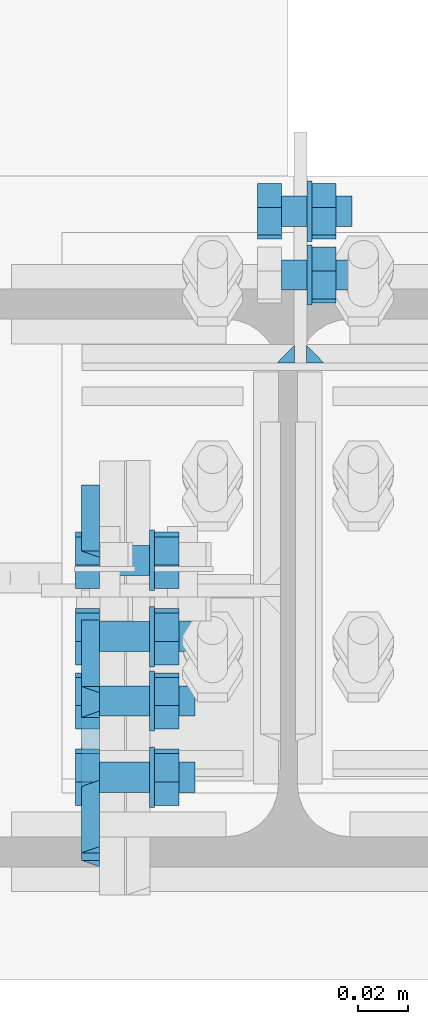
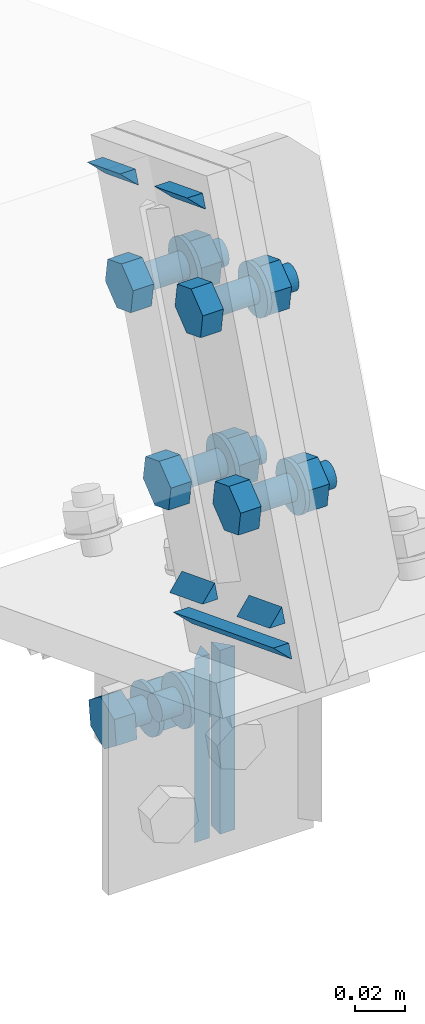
# One storey, part 61 of 72: 23 mechanical fasteners, 12 fasteners.
"""IFC4 building model written with IfcOpenShell, lengths in metres."""

from ifc_helpers import new_model, si_unit, frame, origin_with_axes, place, context, project, spatial, polyline, outline, extrude, type_object, element, save


model = new_model("IFC4")

# Units and contexts
model_context = context("Model", 3, precision=1e-05, world=origin_with_axes())
ifc_project = project(units=[si_unit("LENGTHUNIT", "METRE"), si_unit("AREAUNIT", "SQUARE_METRE"), si_unit("VOLUMEUNIT", "CUBIC_METRE"), si_unit("MASSUNIT", "GRAM", prefix="KILO"), si_unit("TIMEUNIT", "SECOND"), si_unit("PLANEANGLEUNIT", "RADIAN"), si_unit("SOLIDANGLEUNIT", "STERADIAN"), si_unit("THERMODYNAMICTEMPERATUREUNIT", "DEGREE_CELSIUS")], contexts=[model_context])

# Site, building, storey
placement_1 = place(None, origin_with_axes())
site = spatial("IfcSite", under=ifc_project, at=placement_1, Name="Italia", CompositionType="ELEMENT")
building = spatial("IfcBuilding", under=site, at=placement_1, Name="Uffici", CompositionType="ELEMENT")
storey = spatial("IfcBuildingStorey", under=building, at=placement_1, Name="Storey 0", CompositionType="ELEMENT", Elevation=0.0)

# Mechanical fasteners
mechanical_fastener_type_1 = type_object("IfcMechanicalFastenerType", Name="Collegamento 0205_0110", PredefinedType="BOLT")
placement_2 = place(placement_1, origin_with_axes())
mechanical_fastener_1_placement = place(placement_2, origin_with_axes())
element("IfcMechanicalFastener", 1, at=mechanical_fastener_1_placement, inside=storey, type_object=mechanical_fastener_type_1, Name="Collegamento 0205_0110", NominalDiameter=0.012, context=model_context, shape_type="SweptSolid", body=[
    extrude(outline(polyline([(0.0, 0.0), (-0.000204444, -0.00155306), (-0.000803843, -0.00299978), (-0.00175735, -0.00424242), (-0.003, -0.00519609), (-0.00444708, -0.00579548), (-0.006, -0.00600004), (-0.00755291, -0.00579548), (-0.009, -0.00519609), (-0.0102426, -0.00424242), (-0.0111962, -0.00299978), (-0.0117956, -0.00155306), (-0.012, 0.0), (-0.0117956, 0.00155306), (-0.0111962, 0.00299978), (-0.0102426, 0.00424242), (-0.009, 0.00519609), (-0.00755291, 0.00579548), (-0.006, 0.00600004), (-0.00444708, 0.00579548), (-0.003, 0.00519609), (-0.00175735, 0.00424242), (-0.000803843, 0.00299978), (-0.000204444, 0.00155306), (0.0, 0.0)])), frame((13.9955, 0.114548, 6.87073), z_axis=(-1.0, 0.0, 0.0), x_axis=(0.0, -1.0, 0.0)), (0.0, 0.0, 1.0), 0.0279999),
])
mechanical_fastener_type_2 = type_object("IfcMechanicalFastenerType", Name="Collegamento 0205_0110", PredefinedType="BOLT")
mechanical_fastener_2_placement = place(placement_2, origin_with_axes())
element("IfcMechanicalFastener", 2, at=mechanical_fastener_2_placement, inside=storey, type_object=mechanical_fastener_type_2, Name="Collegamento 0205_0110", NominalDiameter=0.0119999, context=model_context, shape_type="SweptSolid", body=[
    extrude(outline(polyline([(0.0, 0.0), (0.0095285, 0.00729465), (0.00797568, 0.0191936), (-0.0031057, 0.0237985), (-0.0126342, 0.0165038), (-0.0110813, 0.00460482), (0.0, 0.0)])), frame((13.9891, 0.118995, 6.85883), z_axis=(-1.0, 0.0, 0.0), x_axis=(0.0, -1.0, 0.0)), (0.0, 0.0, 1.0), 0.00960064),
])
mechanical_fastener_type_3 = type_object("IfcMechanicalFastenerType", Name="Collegamento 0205_0110", PredefinedType="BOLT")
mechanical_fastener_3_placement = place(placement_2, origin_with_axes())
element("IfcMechanicalFastener", 3, at=mechanical_fastener_3_placement, inside=storey, type_object=mechanical_fastener_type_3, Name="Collegamento 0205_0110", NominalDiameter=0.024, context=model_context, shape_type="SweptSolid", body=[
    extrude(outline(polyline([(0.0, 0.0), (-0.000408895, -0.00310564), (-0.00160769, -0.00600004), (-0.00351472, -0.00848532), (-0.006, -0.0103922), (-0.00889418, -0.011591), (-0.012, -0.0120001), (-0.0151058, -0.011591), (-0.018, -0.0103922), (-0.0204853, -0.00848532), (-0.0223923, -0.00600004), (-0.0235911, -0.00310564), (-0.024, 0.0), (-0.0235911, 0.00310564), (-0.0223923, 0.00600004), (-0.0204853, 0.00848532), (-0.018, 0.0103922), (-0.0151058, 0.011591), (-0.012, 0.0120001), (-0.00889418, 0.011591), (-0.006, 0.0103922), (-0.00351471, 0.00848532), (-0.00160769, 0.00600004), (-0.000408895, 0.00310564), (0.0, 0.0)])), frame((13.9795, 0.108548, 6.87073), z_axis=(-1.0, 0.0, 0.0), x_axis=(0.0, -1.0, 0.0)), (0.0, 0.0, 1.0), 0.00199986),
])
mechanical_fastener_type_4 = type_object("IfcMechanicalFastenerType", Name="Collegamento 0205_0110", PredefinedType="BOLT")
mechanical_fastener_4_placement = place(placement_2, origin_with_axes())
element("IfcMechanicalFastener", 4, at=mechanical_fastener_4_placement, inside=storey, type_object=mechanical_fastener_type_4, Name="Collegamento 0205_0110", NominalDiameter=0.0119999, context=model_context, shape_type="SweptSolid", body=[
    extrude(outline(polyline([(0.0, 0.0), (0.00952852, 0.00729465), (0.0079757, 0.0191936), (-0.00310567, 0.0237985), (-0.0126342, 0.0165043), (-0.0110813, 0.00460482), (0.0, 0.0)])), frame((13.9675, 0.144404, 6.83938), z_axis=(-1.0, 0.0, 0.0), x_axis=(0.0, -1.0, 0.0)), (0.0, 0.0, 1.0), 0.00960064),
])
mechanical_fastener_type_5 = type_object("IfcMechanicalFastenerType", Name="Collegamento 0205_0110", PredefinedType="BOLT")
mechanical_fastener_5_placement = place(placement_2, origin_with_axes())
element("IfcMechanicalFastener", 5, at=mechanical_fastener_5_placement, inside=storey, type_object=mechanical_fastener_type_5, Name="Collegamento 0205_0110", NominalDiameter=0.012, context=model_context, shape_type="SweptSolid", body=[
    extrude(outline(polyline([(0.0, 0.0), (-0.000204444, -0.00155306), (-0.000803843, -0.00299978), (-0.00175735, -0.00424242), (-0.00299999, -0.00519609), (-0.00444709, -0.00579548), (-0.006, -0.00600004), (-0.00755291, -0.00579548), (-0.009, -0.00519609), (-0.0102426, -0.00424242), (-0.0111962, -0.00299978), (-0.0117956, -0.00155306), (-0.012, 0.0), (-0.0117956, 0.00155306), (-0.0111962, 0.00299978), (-0.0102426, 0.00424242), (-0.009, 0.00519609), (-0.00755291, 0.00579548), (-0.006, 0.00600004), (-0.00444709, 0.00579548), (-0.00299999, 0.00519609), (-0.00175735, 0.00424242), (-0.000803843, 0.00299978), (-0.000204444, 0.00155306), (0.0, 0.0)])), frame((13.9955, 0.139957, 6.85128), z_axis=(-1.0, 0.0, 0.0), x_axis=(0.0, -1.0, 0.0)), (0.0, 0.0, 1.0), 0.0279999),
])
mechanical_fastener_type_6 = type_object("IfcMechanicalFastenerType", Name="Collegamento 0205_0110", PredefinedType="BOLT")
mechanical_fastener_6_placement = place(placement_2, origin_with_axes())
element("IfcMechanicalFastener", 6, at=mechanical_fastener_6_placement, inside=storey, type_object=mechanical_fastener_type_6, Name="Collegamento 0205_0110", NominalDiameter=0.0119999, context=model_context, shape_type="SweptSolid", body=[
    extrude(outline(polyline([(0.0, 0.0), (0.00952852, 0.00729465), (0.0079757, 0.0191936), (-0.00310567, 0.0237985), (-0.0126342, 0.0165043), (-0.0110813, 0.00460482), (0.0, 0.0)])), frame((13.9891, 0.144404, 6.83938), z_axis=(-1.0, 0.0, 0.0), x_axis=(0.0, -1.0, 0.0)), (0.0, 0.0, 1.0), 0.00960064),
])
mechanical_fastener_type_7 = type_object("IfcMechanicalFastenerType", Name="Collegamento 0205_0110", PredefinedType="BOLT")
mechanical_fastener_7_placement = place(placement_2, origin_with_axes())
element("IfcMechanicalFastener", 7, at=mechanical_fastener_7_placement, inside=storey, type_object=mechanical_fastener_type_7, Name="Collegamento 0205_0110", NominalDiameter=0.024, context=model_context, shape_type="SweptSolid", body=[
    extrude(outline(polyline([(0.0, 0.0), (-0.000408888, -0.00310564), (-0.00160769, -0.00600004), (-0.00351471, -0.00848532), (-0.006, -0.0103922), (-0.00889416, -0.011591), (-0.012, -0.0120001), (-0.0151058, -0.011591), (-0.018, -0.0103922), (-0.0204853, -0.00848532), (-0.0223923, -0.00600004), (-0.0235911, -0.00310564), (-0.024, 0.0), (-0.0235911, 0.00310564), (-0.0223923, 0.00600004), (-0.0204853, 0.00848532), (-0.018, 0.0103922), (-0.0151058, 0.011591), (-0.012, 0.0120001), (-0.00889416, 0.011591), (-0.006, 0.0103922), (-0.00351471, 0.00848532), (-0.00160769, 0.00600004), (-0.000408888, 0.00310564), (0.0, 0.0)])), frame((13.9795, 0.133957, 6.85128), z_axis=(-1.0, 0.0, 0.0), x_axis=(0.0, -1.0, 0.0)), (0.0, 0.0, 1.0), 0.00199986),
])

# Fasteners
fastener_type_1 = type_object("IfcFastenerType", Name="Collegamento 0205_0110", PredefinedType="WELD")
fastener_1_placement = place(placement_2, origin_with_axes())
element("IfcFastener", 8, at=fastener_1_placement, inside=storey, type_object=fastener_type_1, Name="Collegamento 0205_0110", context=model_context, shape_type="SweptSolid", body=[
    extrude(outline(polyline([(0.0, 0.0), (0.00717336, -0.00695801), (0.0, -0.00695801), (0.0, 0.0)])), frame((13.9844, 0.08545, 6.91661), z_axis=(0.0, 0.0, -1.0), x_axis=(0.0, 1.0, 0.0)), (0.0, 0.0, 1.0), 0.0900998),
])
fastener_type_2 = type_object("IfcFastenerType", Name="Collegamento 0205_0110", PredefinedType="WELD")
fastener_2_placement = place(placement_2, origin_with_axes())
element("IfcFastener", 9, at=fastener_2_placement, inside=storey, type_object=fastener_type_2, Name="Collegamento 0205_0110", context=model_context, shape_type="SweptSolid", body=[
    extrude(outline(polyline([(0.0, 0.0), (0.00717336, -0.00695801), (0.0, -0.00695801), (0.0, 0.0)])), frame((13.9656, 0.08545, 6.82651), z_axis=(0.0, 0.0, 1.0), x_axis=(0.0, 1.0, 0.0)), (0.0, 0.0, 1.0), 0.0900998),
])
fastener_type_3 = type_object("IfcFastenerType", Name="Collegamento 0205_0204", PredefinedType="WELD")
fastener_3_placement = place(placement_2, origin_with_axes())
element("IfcFastener", 10, at=fastener_3_placement, inside=storey, type_object=fastener_type_3, Name="Collegamento 0205_0204", context=model_context, shape_type="SweptSolid", body=[
    extrude(outline(polyline([(0.0, 0.0), (-0.00717354, 0.00695801), (0.0, 0.00695801), (0.0, 0.0)])), frame((13.8951, 0.0345697, 7.21007), z_axis=(0.0, -0.932385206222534, 0.361466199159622), x_axis=(1.0, 0.0, 0.0)), (0.0, 0.0, 1.0), 0.0283003),
])
fastener_type_4 = type_object("IfcFastenerType", Name="Collegamento 0205_0204", PredefinedType="WELD")
fastener_4_placement = place(placement_2, origin_with_axes())
element("IfcFastener", 11, at=fastener_4_placement, inside=storey, type_object=fastener_type_4, Name="Collegamento 0205_0204", context=model_context, shape_type="SweptSolid", body=[
    extrude(outline(polyline([(0.0, 0.0), (0.00717354, -0.00695753), (0.0, -0.00695753), (0.0, 0.0)])), frame((13.8951, -0.0529705, 7.06256), z_axis=(0.0, 0.932390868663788, -0.36145156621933), x_axis=(-1.0, 0.0, 0.0)), (0.0, 0.0, 1.0), 0.0283001),
])
fastener_type_5 = type_object("IfcFastenerType", Name="Collegamento 0205_0204", PredefinedType="WELD")
fastener_5_placement = place(placement_2, origin_with_axes())
element("IfcFastener", 12, at=fastener_5_placement, inside=storey, type_object=fastener_type_5, Name="Collegamento 0205_0204", context=model_context, shape_type="SweptSolid", body=[
    extrude(outline(polyline([(0.0, 0.0), (-0.00717354, 0.00695801), (0.0, 0.00695801), (0.0, 0.0)])), frame((13.8951, -0.0346503, 7.03152), z_axis=(0.0, -0.93238765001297, 0.361459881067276), x_axis=(1.0, 0.0, 0.0)), (0.0, 0.0, 1.0), 0.0861001),
])
fastener_type_6 = type_object("IfcFastenerType", Name="Collegamento 0205_0204", PredefinedType="WELD")
fastener_6_placement = place(placement_2, origin_with_axes())
element("IfcFastener", 13, at=fastener_6_placement, inside=storey, type_object=fastener_type_6, Name="Collegamento 0205_0204", context=model_context, shape_type="SweptSolid", body=[
    extrude(outline(polyline([(0.0, 0.0), (0.00717354, -0.00695848), (0.0, -0.00695848), (0.0, 0.0)])), frame((13.8951, -0.106862, 7.08345), z_axis=(0.0, 0.932385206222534, -0.361466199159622), x_axis=(-1.0, 0.0, 0.0)), (0.0, 0.0, 1.0), 0.0283003),
])
fastener_type_7 = type_object("IfcFastenerType", Name="Collegamento 0205_0204", PredefinedType="WELD")
fastener_7_placement = place(placement_2, origin_with_axes())
element("IfcFastener", 14, at=fastener_7_placement, inside=storey, type_object=fastener_type_7, Name="Collegamento 0205_0204", context=model_context, shape_type="SweptSolid", body=[
    extrude(outline(polyline([(0.0, 0.0), (-0.00717354, 0.00695848), (0.0, 0.00695848), (0.0, 0.0)])), frame((13.8951, -0.0193225, 7.23096), z_axis=(0.0, -0.932388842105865, 0.361456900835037), x_axis=(1.0, 0.0, 0.0)), (0.0, 0.0, 1.0), 0.0282997),
])
fastener_type_8 = type_object("IfcFastenerType", Name="Collegamento 0205_0204", PredefinedType="WELD")
fastener_8_placement = place(placement_2, origin_with_axes())
element("IfcFastener", 15, at=fastener_8_placement, inside=storey, type_object=fastener_type_8, Name="Collegamento 0205_0204", context=model_context, shape_type="SweptSolid", body=[
    extrude(outline(polyline([(0.0, 0.0), (-0.00717354, 0.00695801), (0.0, 0.00695801), (0.0, 0.0)])), frame((13.8951, 0.0345697, 7.21007), z_axis=(0.0, -0.932385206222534, 0.361466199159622), x_axis=(1.0, 0.0, 0.0)), (0.0, 0.0, 1.0), 0.0283003),
])
fastener_type_9 = type_object("IfcFastenerType", Name="Collegamento 0205_0204", PredefinedType="WELD")
fastener_9_placement = place(placement_2, origin_with_axes())
element("IfcFastener", 16, at=fastener_9_placement, inside=storey, type_object=fastener_type_9, Name="Collegamento 0205_0204", context=model_context, shape_type="SweptSolid", body=[
    extrude(outline(polyline([(0.0, 0.0), (0.00717354, -0.00695753), (0.0, -0.00695753), (0.0, 0.0)])), frame((13.8951, -0.0529705, 7.06256), z_axis=(0.0, 0.932390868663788, -0.36145156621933), x_axis=(-1.0, 0.0, 0.0)), (0.0, 0.0, 1.0), 0.0283001),
])
fastener_type_10 = type_object("IfcFastenerType", Name="Collegamento 0205_0204", PredefinedType="WELD")
fastener_10_placement = place(placement_2, origin_with_axes())
element("IfcFastener", 17, at=fastener_10_placement, inside=storey, type_object=fastener_type_10, Name="Collegamento 0205_0204", context=model_context, shape_type="SweptSolid", body=[
    extrude(outline(polyline([(0.0, 0.0), (-0.00717354, 0.00695801), (0.0, 0.00695801), (0.0, 0.0)])), frame((13.8951, -0.0346503, 7.03152), z_axis=(0.0, -0.93238765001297, 0.361459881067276), x_axis=(1.0, 0.0, 0.0)), (0.0, 0.0, 1.0), 0.0861001),
])
fastener_type_11 = type_object("IfcFastenerType", Name="Collegamento 0205_0204", PredefinedType="WELD")
fastener_11_placement = place(placement_2, origin_with_axes())
element("IfcFastener", 18, at=fastener_11_placement, inside=storey, type_object=fastener_type_11, Name="Collegamento 0205_0204", context=model_context, shape_type="SweptSolid", body=[
    extrude(outline(polyline([(0.0, 0.0), (0.00717354, -0.00695848), (0.0, -0.00695848), (0.0, 0.0)])), frame((13.8951, -0.106862, 7.08345), z_axis=(0.0, 0.932385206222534, -0.361466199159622), x_axis=(-1.0, 0.0, 0.0)), (0.0, 0.0, 1.0), 0.0283003),
])
fastener_type_12 = type_object("IfcFastenerType", Name="Collegamento 0205_0204", PredefinedType="WELD")
fastener_12_placement = place(placement_2, origin_with_axes())
element("IfcFastener", 19, at=fastener_12_placement, inside=storey, type_object=fastener_type_12, Name="Collegamento 0205_0204", context=model_context, shape_type="SweptSolid", body=[
    extrude(outline(polyline([(0.0, 0.0), (-0.00717354, 0.00695848), (0.0, 0.00695848), (0.0, 0.0)])), frame((13.8951, -0.0193225, 7.23096), z_axis=(0.0, -0.932388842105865, 0.361456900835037), x_axis=(1.0, 0.0, 0.0)), (0.0, 0.0, 1.0), 0.0282997),
])

# Mechanical fasteners
mechanical_fastener_type_8 = type_object("IfcMechanicalFastenerType", Name="Collegamento 0205_0204", PredefinedType="BOLT")
mechanical_fastener_8_placement = place(placement_2, origin_with_axes())
element("IfcMechanicalFastener", 20, at=mechanical_fastener_8_placement, inside=storey, type_object=mechanical_fastener_type_8, Name="Collegamento 0205_0204", NominalDiameter=0.0119999, context=model_context, shape_type="SweptSolid", body=[
    extrude(outline(polyline([(0.0, 0.0), (-0.0111886, -0.00433731), (-0.0205394, 0.00318336), (-0.0187015, 0.0150418), (-0.00751284, 0.0193796), (0.0018379, 0.0118585), (0.0, 0.0)])), frame((13.895, -0.0327067, 7.08924), z_axis=(-1.0, 0.0, 0.0), x_axis=(0.0, -1.0, 0.0)), (0.0, 0.0, 1.0), 0.00959969),
])
mechanical_fastener_type_9 = type_object("IfcMechanicalFastenerType", Name="Collegamento 0205_0204", PredefinedType="BOLT")
mechanical_fastener_9_placement = place(placement_2, origin_with_axes())
element("IfcMechanicalFastener", 21, at=mechanical_fastener_9_placement, inside=storey, type_object=mechanical_fastener_type_9, Name="Collegamento 0205_0204", NominalDiameter=0.012, context=model_context, shape_type="SweptSolid", body=[
    extrude(outline(polyline([(0.0, 0.0), (-0.000204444, -0.00155306), (-0.000803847, -0.00299978), (-0.00175736, -0.00424242), (-0.003, -0.00519609), (-0.00444708, -0.00579548), (-0.006, -0.00600004), (-0.00755291, -0.00579548), (-0.009, -0.00519609), (-0.0102426, -0.00424242), (-0.0111962, -0.00299978), (-0.0117956, -0.00155306), (-0.012, 0.0), (-0.0117956, 0.00155306), (-0.0111962, 0.00299978), (-0.0102426, 0.00424242), (-0.009, 0.00519609), (-0.00755291, 0.00579548), (-0.006, 0.00600004), (-0.00444709, 0.00579548), (-0.003, 0.00519609), (-0.00175736, 0.00424242), (-0.000803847, 0.00299978), (-0.000204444, 0.00155306), (0.0, 0.0)])), frame((13.933, -0.029356, 7.09676), z_axis=(-1.0, 0.0, 0.0), x_axis=(0.0, -1.0, 0.0)), (0.0, 0.0, 1.0), 0.0380001),
])
mechanical_fastener_type_10 = type_object("IfcMechanicalFastenerType", Name="Collegamento 0205_0204", PredefinedType="BOLT")
mechanical_fastener_10_placement = place(placement_2, origin_with_axes())
element("IfcMechanicalFastener", 22, at=mechanical_fastener_10_placement, inside=storey, type_object=mechanical_fastener_type_10, Name="Collegamento 0205_0204", NominalDiameter=0.0119999, context=model_context, shape_type="SweptSolid", body=[
    extrude(outline(polyline([(0.0, 0.0), (-0.0111886, -0.00433731), (-0.0205394, 0.00318336), (-0.0187015, 0.0150418), (-0.00751284, 0.0193796), (0.0018379, 0.0118585), (0.0, 0.0)])), frame((13.9266, -0.0327067, 7.08924), z_axis=(-1.0, 0.0, 0.0), x_axis=(0.0, -1.0, 0.0)), (0.0, 0.0, 1.0), 0.00959969),
])
mechanical_fastener_type_11 = type_object("IfcMechanicalFastenerType", Name="Collegamento 0205_0204", PredefinedType="BOLT")
mechanical_fastener_11_placement = place(placement_2, origin_with_axes())
element("IfcMechanicalFastener", 23, at=mechanical_fastener_11_placement, inside=storey, type_object=mechanical_fastener_type_11, Name="Collegamento 0205_0204", NominalDiameter=0.024, context=model_context, shape_type="SweptSolid", body=[
    extrude(outline(polyline([(0.0, 0.0), (-0.000408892, -0.00310564), (-0.0016077, -0.00600004), (-0.00351472, -0.00848532), (-0.006, -0.0103922), (-0.00889417, -0.011591), (-0.012, -0.0120001), (-0.0151058, -0.011591), (-0.018, -0.0103922), (-0.0204853, -0.00848532), (-0.0223923, -0.00600004), (-0.0235911, -0.00310564), (-0.024, 0.0), (-0.0235911, 0.00310564), (-0.0223923, 0.00600004), (-0.0204853, 0.00848532), (-0.018, 0.0103922), (-0.0151058, 0.011591), (-0.012, 0.0120001), (-0.00889417, 0.011591), (-0.006, 0.0103922), (-0.00351471, 0.00848532), (-0.00160769, 0.00600004), (-0.000408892, 0.00310564), (0.0, 0.0)])), frame((13.917, -0.035356, 7.09676), z_axis=(-1.0, 0.0, 0.0), x_axis=(0.0, -1.0, 0.0)), (0.0, 0.0, 1.0), 0.00199986),
])
mechanical_fastener_type_12 = type_object("IfcMechanicalFastenerType", Name="Collegamento 0205_0204", PredefinedType="BOLT")
mechanical_fastener_12_placement = place(placement_2, origin_with_axes())
element("IfcMechanicalFastener", 24, at=mechanical_fastener_12_placement, inside=storey, type_object=mechanical_fastener_type_12, Name="Collegamento 0205_0204", NominalDiameter=0.0119999, context=model_context, shape_type="SweptSolid", body=[
    extrude(outline(polyline([(0.0, 0.0), (-0.0111886, -0.00433779), (-0.0205394, 0.00318336), (-0.0187015, 0.0150418), (-0.00751284, 0.0193791), (0.00183791, 0.0118585), (0.0, 0.0)])), frame((13.895, -0.0886499, 7.11092), z_axis=(-1.0, 0.0, 0.0), x_axis=(0.0, -1.0, 0.0)), (0.0, 0.0, 1.0), 0.00959969),
])
mechanical_fastener_type_13 = type_object("IfcMechanicalFastenerType", Name="Collegamento 0205_0204", PredefinedType="BOLT")
mechanical_fastener_13_placement = place(placement_2, origin_with_axes())
element("IfcMechanicalFastener", 25, at=mechanical_fastener_13_placement, inside=storey, type_object=mechanical_fastener_type_13, Name="Collegamento 0205_0204", NominalDiameter=0.012, context=model_context, shape_type="SweptSolid", body=[
    extrude(outline(polyline([(0.0, 0.0), (-0.000204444, -0.00155306), (-0.000803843, -0.00299978), (-0.00175735, -0.00424242), (-0.003, -0.00519609), (-0.00444708, -0.00579548), (-0.006, -0.00600004), (-0.00755291, -0.00579548), (-0.009, -0.00519609), (-0.0102426, -0.00424242), (-0.0111962, -0.00299978), (-0.0117956, -0.00155306), (-0.012, 0.0), (-0.0117956, 0.00155306), (-0.0111962, 0.00299978), (-0.0102426, 0.00424242), (-0.009, 0.00519609), (-0.00755291, 0.00579548), (-0.006, 0.00600004), (-0.00444708, 0.00579548), (-0.003, 0.00519609), (-0.00175735, 0.00424242), (-0.000803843, 0.00299978), (-0.000204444, 0.00155306), (0.0, 0.0)])), frame((13.933, -0.0852992, 7.11844), z_axis=(-1.0, 0.0, 0.0), x_axis=(0.0, -1.0, 0.0)), (0.0, 0.0, 1.0), 0.0380001),
])
mechanical_fastener_type_14 = type_object("IfcMechanicalFastenerType", Name="Collegamento 0205_0204", PredefinedType="BOLT")
mechanical_fastener_14_placement = place(placement_2, origin_with_axes())
element("IfcMechanicalFastener", 26, at=mechanical_fastener_14_placement, inside=storey, type_object=mechanical_fastener_type_14, Name="Collegamento 0205_0204", NominalDiameter=0.0119999, context=model_context, shape_type="SweptSolid", body=[
    extrude(outline(polyline([(0.0, 0.0), (-0.0111886, -0.00433779), (-0.0205394, 0.00318336), (-0.0187015, 0.0150418), (-0.00751284, 0.0193791), (0.00183791, 0.0118585), (0.0, 0.0)])), frame((13.9266, -0.0886499, 7.11092), z_axis=(-1.0, 0.0, 0.0), x_axis=(0.0, -1.0, 0.0)), (0.0, 0.0, 1.0), 0.00959969),
])
mechanical_fastener_type_15 = type_object("IfcMechanicalFastenerType", Name="Collegamento 0205_0204", PredefinedType="BOLT")
mechanical_fastener_15_placement = place(placement_2, origin_with_axes())
element("IfcMechanicalFastener", 27, at=mechanical_fastener_15_placement, inside=storey, type_object=mechanical_fastener_type_15, Name="Collegamento 0205_0204", NominalDiameter=0.024, context=model_context, shape_type="SweptSolid", body=[
    extrude(outline(polyline([(0.0, 0.0), (-0.000408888, -0.00310564), (-0.0016077, -0.00600004), (-0.00351472, -0.00848532), (-0.006, -0.0103922), (-0.00889418, -0.011591), (-0.012, -0.0120001), (-0.0151058, -0.011591), (-0.018, -0.0103922), (-0.0204853, -0.00848532), (-0.0223923, -0.00600004), (-0.0235911, -0.00310564), (-0.024, 0.0), (-0.0235911, 0.00310564), (-0.0223923, 0.00600004), (-0.0204853, 0.00848532), (-0.018, 0.0103922), (-0.0151058, 0.011591), (-0.012, 0.0120001), (-0.00889418, 0.011591), (-0.006, 0.0103922), (-0.00351471, 0.00848532), (-0.00160769, 0.00600004), (-0.000408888, 0.00310564), (0.0, 0.0)])), frame((13.917, -0.0912992, 7.11844), z_axis=(-1.0, 0.0, 0.0), x_axis=(0.0, -1.0, 0.0)), (0.0, 0.0, 1.0), 0.00199986),
])
mechanical_fastener_type_16 = type_object("IfcMechanicalFastenerType", Name="Collegamento 0205_0204", PredefinedType="BOLT")
mechanical_fastener_16_placement = place(placement_2, origin_with_axes())
element("IfcMechanicalFastener", 28, at=mechanical_fastener_16_placement, inside=storey, type_object=mechanical_fastener_type_16, Name="Collegamento 0205_0204", NominalDiameter=0.0119999, context=model_context, shape_type="SweptSolid", body=[
    extrude(outline(polyline([(0.0, 0.0), (-0.0111886, -0.00433731), (-0.0205394, 0.00318336), (-0.0187015, 0.0150418), (-0.00751284, 0.0193796), (0.00183791, 0.0118585), (0.0, 0.0)])), frame((13.895, -0.00234391, 7.16756), z_axis=(-1.0, 0.0, 0.0), x_axis=(0.0, -1.0, 0.0)), (0.0, 0.0, 1.0), 0.00959969),
])
mechanical_fastener_type_17 = type_object("IfcMechanicalFastenerType", Name="Collegamento 0205_0204", PredefinedType="BOLT")
mechanical_fastener_17_placement = place(placement_2, origin_with_axes())
element("IfcMechanicalFastener", 29, at=mechanical_fastener_17_placement, inside=storey, type_object=mechanical_fastener_type_17, Name="Collegamento 0205_0204", NominalDiameter=0.012, context=model_context, shape_type="SweptSolid", body=[
    extrude(outline(polyline([(0.0, 0.0), (-0.000204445, -0.00155306), (-0.000803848, -0.00299978), (-0.00175736, -0.00424242), (-0.003, -0.00519609), (-0.00444709, -0.00579548), (-0.006, -0.00600004), (-0.00755292, -0.00579548), (-0.009, -0.00519609), (-0.0102426, -0.00424242), (-0.0111962, -0.00299978), (-0.0117956, -0.00155306), (-0.012, 0.0), (-0.0117956, 0.00155306), (-0.0111962, 0.00299978), (-0.0102426, 0.00424242), (-0.009, 0.00519609), (-0.00755291, 0.00579548), (-0.006, 0.00600004), (-0.00444709, 0.00579548), (-0.003, 0.00519609), (-0.00175736, 0.00424242), (-0.000803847, 0.00299978), (-0.000204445, 0.00155306), (0.0, 0.0)])), frame((13.933, 0.00100683, 7.17508), z_axis=(-1.0, 0.0, 0.0), x_axis=(0.0, -1.0, 0.0)), (0.0, 0.0, 1.0), 0.0380001),
])
mechanical_fastener_type_18 = type_object("IfcMechanicalFastenerType", Name="Collegamento 0205_0204", PredefinedType="BOLT")
mechanical_fastener_18_placement = place(placement_2, origin_with_axes())
element("IfcMechanicalFastener", 30, at=mechanical_fastener_18_placement, inside=storey, type_object=mechanical_fastener_type_18, Name="Collegamento 0205_0204", NominalDiameter=0.0119999, context=model_context, shape_type="SweptSolid", body=[
    extrude(outline(polyline([(0.0, 0.0), (-0.0111886, -0.00433731), (-0.0205394, 0.00318336), (-0.0187015, 0.0150418), (-0.00751284, 0.0193796), (0.00183791, 0.0118585), (0.0, 0.0)])), frame((13.9266, -0.00234391, 7.16756), z_axis=(-1.0, 0.0, 0.0), x_axis=(0.0, -1.0, 0.0)), (0.0, 0.0, 1.0), 0.00959969),
])
mechanical_fastener_type_19 = type_object("IfcMechanicalFastenerType", Name="Collegamento 0205_0204", PredefinedType="BOLT")
mechanical_fastener_19_placement = place(placement_2, origin_with_axes())
element("IfcMechanicalFastener", 31, at=mechanical_fastener_19_placement, inside=storey, type_object=mechanical_fastener_type_19, Name="Collegamento 0205_0204", NominalDiameter=0.024, context=model_context, shape_type="SweptSolid", body=[
    extrude(outline(polyline([(0.0, 0.0), (-0.00040889, -0.00310564), (-0.0016077, -0.00600004), (-0.00351472, -0.00848532), (-0.006, -0.0103922), (-0.00889417, -0.011591), (-0.012, -0.0120001), (-0.0151058, -0.011591), (-0.018, -0.0103922), (-0.0204853, -0.00848532), (-0.0223923, -0.00600004), (-0.0235911, -0.00310564), (-0.024, 0.0), (-0.0235911, 0.00310564), (-0.0223923, 0.00600004), (-0.0204853, 0.00848532), (-0.018, 0.0103922), (-0.0151058, 0.011591), (-0.012, 0.0120001), (-0.00889417, 0.011591), (-0.006, 0.0103922), (-0.00351472, 0.00848532), (-0.00160769, 0.00600004), (-0.00040889, 0.00310564), (0.0, 0.0)])), frame((13.917, -0.00499317, 7.17508), z_axis=(-1.0, 0.0, 0.0), x_axis=(0.0, -1.0, 0.0)), (0.0, 0.0, 1.0), 0.00199986),
])
mechanical_fastener_type_20 = type_object("IfcMechanicalFastenerType", Name="Collegamento 0205_0204", PredefinedType="BOLT")
mechanical_fastener_20_placement = place(placement_2, origin_with_axes())
element("IfcMechanicalFastener", 32, at=mechanical_fastener_20_placement, inside=storey, type_object=mechanical_fastener_type_20, Name="Collegamento 0205_0204", NominalDiameter=0.0119999, context=model_context, shape_type="SweptSolid", body=[
    extrude(outline(polyline([(0.0, 0.0), (-0.0111886, -0.00433779), (-0.0205394, 0.00318336), (-0.0187015, 0.0150418), (-0.00751285, 0.0193791), (0.0018379, 0.0118585), (0.0, 0.0)])), frame((13.895, -0.0582871, 7.18924), z_axis=(-1.0, 0.0, 0.0), x_axis=(0.0, -1.0, 0.0)), (0.0, 0.0, 1.0), 0.00959969),
])
mechanical_fastener_type_21 = type_object("IfcMechanicalFastenerType", Name="Collegamento 0205_0204", PredefinedType="BOLT")
mechanical_fastener_21_placement = place(placement_2, origin_with_axes())
element("IfcMechanicalFastener", 33, at=mechanical_fastener_21_placement, inside=storey, type_object=mechanical_fastener_type_21, Name="Collegamento 0205_0204", NominalDiameter=0.012, context=model_context, shape_type="SweptSolid", body=[
    extrude(outline(polyline([(0.0, 0.0), (-0.000204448, -0.00155306), (-0.000803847, -0.00299978), (-0.00175736, -0.00424242), (-0.003, -0.00519609), (-0.00444709, -0.00579548), (-0.006, -0.00600004), (-0.00755291, -0.00579548), (-0.009, -0.00519609), (-0.0102426, -0.00424242), (-0.0111962, -0.00299978), (-0.0117956, -0.00155306), (-0.012, 0.0), (-0.0117956, 0.00155306), (-0.0111962, 0.00299978), (-0.0102426, 0.00424242), (-0.009, 0.00519609), (-0.00755291, 0.00579548), (-0.006, 0.00600004), (-0.00444709, 0.00579548), (-0.003, 0.00519609), (-0.00175736, 0.00424242), (-0.000803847, 0.00299978), (-0.000204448, 0.00155306), (0.0, 0.0)])), frame((13.933, -0.0549364, 7.19676), z_axis=(-1.0, 0.0, 0.0), x_axis=(0.0, -1.0, 0.0)), (0.0, 0.0, 1.0), 0.0380001),
])
mechanical_fastener_type_22 = type_object("IfcMechanicalFastenerType", Name="Collegamento 0205_0204", PredefinedType="BOLT")
mechanical_fastener_22_placement = place(placement_2, origin_with_axes())
element("IfcMechanicalFastener", 34, at=mechanical_fastener_22_placement, inside=storey, type_object=mechanical_fastener_type_22, Name="Collegamento 0205_0204", NominalDiameter=0.0119999, context=model_context, shape_type="SweptSolid", body=[
    extrude(outline(polyline([(0.0, 0.0), (-0.0111886, -0.00433779), (-0.0205394, 0.00318336), (-0.0187015, 0.0150418), (-0.00751285, 0.0193791), (0.0018379, 0.0118585), (0.0, 0.0)])), frame((13.9266, -0.0582871, 7.18924), z_axis=(-1.0, 0.0, 0.0), x_axis=(0.0, -1.0, 0.0)), (0.0, 0.0, 1.0), 0.00959969),
])
mechanical_fastener_type_23 = type_object("IfcMechanicalFastenerType", Name="Collegamento 0205_0204", PredefinedType="BOLT")
mechanical_fastener_23_placement = place(placement_2, origin_with_axes())
element("IfcMechanicalFastener", 35, at=mechanical_fastener_23_placement, inside=storey, type_object=mechanical_fastener_type_23, Name="Collegamento 0205_0204", NominalDiameter=0.024, context=model_context, shape_type="SweptSolid", body=[
    extrude(outline(polyline([(0.0, 0.0), (-0.000408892, -0.00310564), (-0.0016077, -0.00600004), (-0.00351472, -0.00848532), (-0.006, -0.0103922), (-0.00889417, -0.011591), (-0.012, -0.0120001), (-0.0151058, -0.011591), (-0.018, -0.0103922), (-0.0204853, -0.00848532), (-0.0223923, -0.00600004), (-0.0235911, -0.00310564), (-0.024, 0.0), (-0.0235911, 0.00310564), (-0.0223923, 0.00600004), (-0.0204853, 0.00848532), (-0.018, 0.0103922), (-0.0151058, 0.011591), (-0.012, 0.0120001), (-0.00889418, 0.011591), (-0.006, 0.0103922), (-0.00351472, 0.00848532), (-0.00160769, 0.00600004), (-0.000408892, 0.00310564), (0.0, 0.0)])), frame((13.917, -0.0609364, 7.19676), z_axis=(-1.0, 0.0, 0.0), x_axis=(0.0, -1.0, 0.0)), (0.0, 0.0, 1.0), 0.00199986),
])

save(model, "model.ifc")
